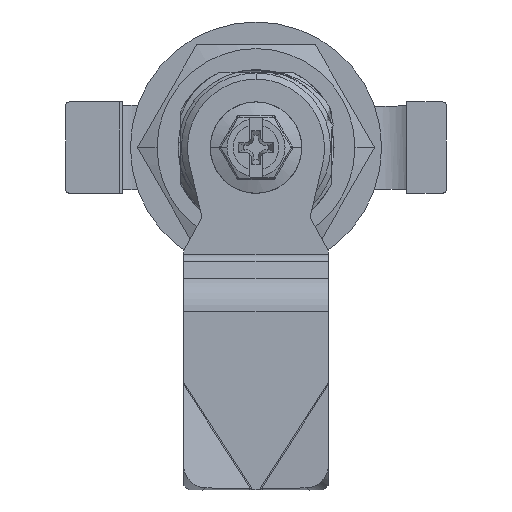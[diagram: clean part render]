
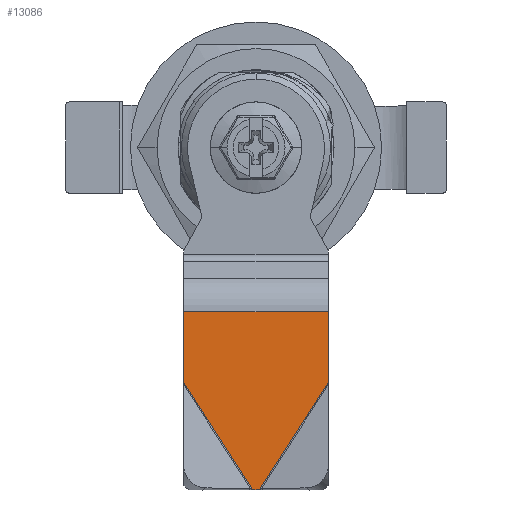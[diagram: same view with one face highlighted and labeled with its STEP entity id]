
A CAD part, front view. The second image highlights one B-rep face of the part: STEP entity #13086.
In plain terms, the highlighted planar face has unit normal (0, -1, 0).
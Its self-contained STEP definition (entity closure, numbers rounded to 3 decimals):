
#109 = VECTOR ( 'NONE', #4473, 1000. ) ;
#1070 = VERTEX_POINT ( 'NONE', #31473 ) ;
#1862 = VERTEX_POINT ( 'NONE', #37906 ) ;
#2030 = ORIENTED_EDGE ( 'NONE', *, *, #8756, .T. ) ;
#2551 = EDGE_LOOP ( 'NONE', ( #24784, #35439, #2030, #7676, #12148, #16662 ) ) ;
#3033 = CARTESIAN_POINT ( 'NONE',  ( 30.919, -11., 9.5 ) ) ;
#4024 = CARTESIAN_POINT ( 'NONE',  ( 30.919, -11., 9.5 ) ) ;
#4473 = DIRECTION ( 'NONE',  ( 1., 0., 0. ) ) ;
#7676 = ORIENTED_EDGE ( 'NONE', *, *, #57837, .F. ) ;
#8596 = CARTESIAN_POINT ( 'NONE',  ( 45., -11., 0.448 ) ) ;
#8756 = EDGE_CURVE ( 'NONE', #1862, #31517, #39923, .T. ) ;
#9286 = VERTEX_POINT ( 'NONE', #33266 ) ;
#9877 = DIRECTION ( 'NONE',  ( 0.841, 0., -0.541 ) ) ;
#12148 = ORIENTED_EDGE ( 'NONE', *, *, #57949, .F. ) ;
#13086 = ADVANCED_FACE ( 'NONE', ( #16636 ), #35103, .F. ) ;
#13396 = VERTEX_POINT ( 'NONE', #8596 ) ;
#15956 = VECTOR ( 'NONE', #33026, 1000. ) ;
#16636 = FACE_OUTER_BOUND ( 'NONE', #2551, .T. ) ;
#16662 = ORIENTED_EDGE ( 'NONE', *, *, #18994, .F. ) ;
#17635 = DIRECTION ( 'NONE',  ( -0.841, 0., -0.541 ) ) ;
#17948 = VERTEX_POINT ( 'NONE', #3033 ) ;
#18994 = EDGE_CURVE ( 'NONE', #17948, #13396, #50619, .T. ) ;
#19069 = EDGE_CURVE ( 'NONE', #17948, #1070, #35582, .T. ) ;
#21662 = VECTOR ( 'NONE', #17635, 1000. ) ;
#23232 = EDGE_CURVE ( 'NONE', #1862, #1070, #55028, .T. ) ;
#24784 = ORIENTED_EDGE ( 'NONE', *, *, #19069, .T. ) ;
#25873 = CARTESIAN_POINT ( 'NONE',  ( 45., -11., -10. ) ) ;
#31473 = CARTESIAN_POINT ( 'NONE',  ( 21.577, -11., 9.5 ) ) ;
#31517 = VERTEX_POINT ( 'NONE', #39509 ) ;
#33026 = DIRECTION ( 'NONE',  ( 0., 0., 1. ) ) ;
#33266 = CARTESIAN_POINT ( 'NONE',  ( 45., -11., -0.448 ) ) ;
#34015 = VECTOR ( 'NONE', #37246, 1000. ) ;
#35103 = PLANE ( 'NONE',  #58134 ) ;
#35439 = ORIENTED_EDGE ( 'NONE', *, *, #23232, .F. ) ;
#35582 = LINE ( 'NONE', #39018, #47085 ) ;
#36361 = LINE ( 'NONE', #54485, #21662 ) ;
#37246 = DIRECTION ( 'NONE',  ( 0., 0., -1. ) ) ;
#37906 = CARTESIAN_POINT ( 'NONE',  ( 21.577, -11., -9.5 ) ) ;
#39018 = CARTESIAN_POINT ( 'NONE',  ( 8.599, -11., 9.5 ) ) ;
#39261 = DIRECTION ( 'NONE',  ( 0., 1., 0. ) ) ;
#39509 = CARTESIAN_POINT ( 'NONE',  ( 30.919, -11., -9.5 ) ) ;
#39923 = LINE ( 'NONE', #48021, #109 ) ;
#46695 = CARTESIAN_POINT ( 'NONE',  ( 21.577, -11., -10. ) ) ;
#47085 = VECTOR ( 'NONE', #52694, 1000. ) ;
#48021 = CARTESIAN_POINT ( 'NONE',  ( 6.395, -11., -9.5 ) ) ;
#50619 = LINE ( 'NONE', #4024, #55624 ) ;
#51499 = LINE ( 'NONE', #55374, #34015 ) ;
#52694 = DIRECTION ( 'NONE',  ( -1., 0., 0. ) ) ;
#52944 = DIRECTION ( 'NONE',  ( 0., 0., 1. ) ) ;
#54485 = CARTESIAN_POINT ( 'NONE',  ( 45., -11., -0.448 ) ) ;
#55028 = LINE ( 'NONE', #46695, #15956 ) ;
#55374 = CARTESIAN_POINT ( 'NONE',  ( 45., -11., -10. ) ) ;
#55624 = VECTOR ( 'NONE', #9877, 1000. ) ;
#57837 = EDGE_CURVE ( 'NONE', #9286, #31517, #36361, .T. ) ;
#57949 = EDGE_CURVE ( 'NONE', #13396, #9286, #51499, .T. ) ;
#58134 = AXIS2_PLACEMENT_3D ( 'NONE', #25873, #39261, #52944 ) ;
